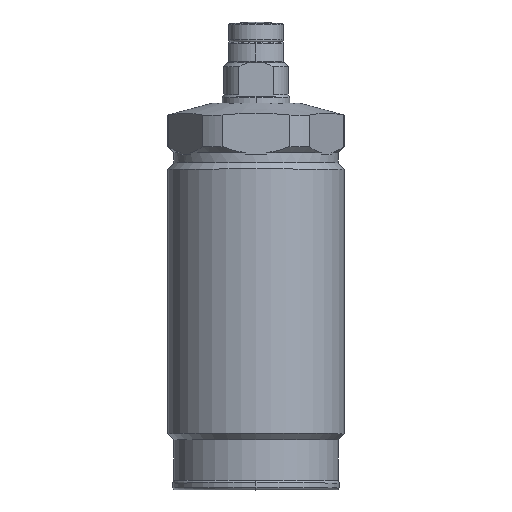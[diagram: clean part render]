
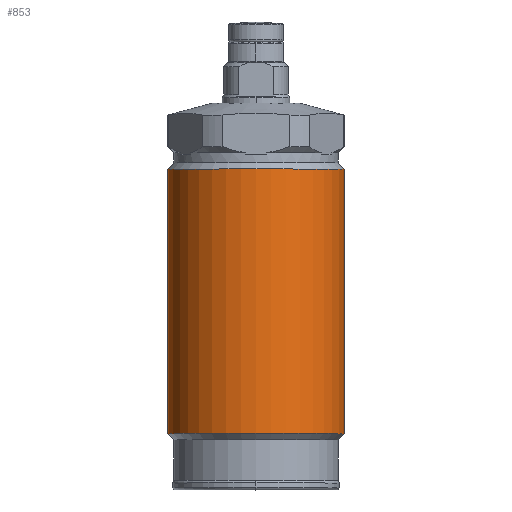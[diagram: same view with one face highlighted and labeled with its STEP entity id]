
A CAD part, top view. The second image highlights one B-rep face of the part: STEP entity #853.
In plain terms, the highlighted cylindrical face has radius 13 mm (diameter 26 mm), a partial arc.
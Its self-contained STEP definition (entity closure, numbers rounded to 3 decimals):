
#469=CYLINDRICAL_SURFACE('',#3498,13.);
#553=LINE('',#5205,#694);
#554=LINE('',#5206,#695);
#694=VECTOR('',#4151,1.);
#695=VECTOR('',#4152,1.);
#853=ADVANCED_FACE('',(#1094),#469,.T.);
#1094=FACE_OUTER_BOUND('',#1280,.T.);
#1280=EDGE_LOOP('',(#1679,#1680,#1681,#1682));
#1679=ORIENTED_EDGE('',*,*,#2773,.T.);
#1680=ORIENTED_EDGE('',*,*,#2774,.T.);
#1681=ORIENTED_EDGE('',*,*,#2771,.F.);
#1682=ORIENTED_EDGE('',*,*,#2775,.F.);
#2445=VERTEX_POINT('',#5197);
#2446=VERTEX_POINT('',#5199);
#2447=VERTEX_POINT('',#5203);
#2448=VERTEX_POINT('',#5204);
#2771=EDGE_CURVE('',#2445,#2446,#3183,.T.);
#2773=EDGE_CURVE('',#2447,#2448,#3184,.T.);
#2774=EDGE_CURVE('',#2448,#2446,#553,.T.);
#2775=EDGE_CURVE('',#2447,#2445,#554,.T.);
#3183=CIRCLE('',#3495,13.);
#3184=CIRCLE('',#3497,13.);
#3495=AXIS2_PLACEMENT_3D('',#5198,#4144,#4145);
#3497=AXIS2_PLACEMENT_3D('',#5202,#4149,#4150);
#3498=AXIS2_PLACEMENT_3D('',#5207,#4153,#4154);
#4144=DIRECTION('',(0.,-1.,0.));
#4145=DIRECTION('',(1.,0.,0.));
#4149=DIRECTION('',(0.,-1.,0.));
#4150=DIRECTION('',(1.,0.,0.));
#4151=DIRECTION('',(0.,-1.,0.));
#4152=DIRECTION('',(0.,-1.,0.));
#4153=DIRECTION('',(0.,-1.,0.));
#4154=DIRECTION('',(-1.,0.,0.));
#5197=CARTESIAN_POINT('',(13.,-48.7,0.));
#5198=CARTESIAN_POINT('',(0.,-48.7,0.));
#5199=CARTESIAN_POINT('',(-13.,-48.7,0.));
#5202=CARTESIAN_POINT('',(0.,-9.7,0.));
#5203=CARTESIAN_POINT('',(13.,-9.7,0.));
#5204=CARTESIAN_POINT('',(-13.,-9.7,0.));
#5205=CARTESIAN_POINT('',(-13.,1.,0.));
#5206=CARTESIAN_POINT('',(13.,1.,0.));
#5207=CARTESIAN_POINT('',(0.,1.,0.));
